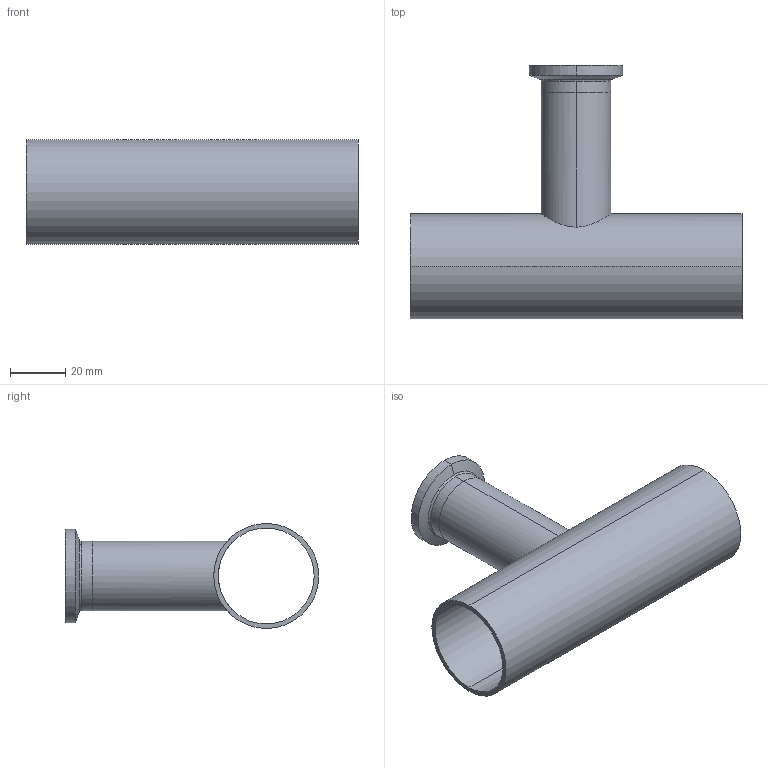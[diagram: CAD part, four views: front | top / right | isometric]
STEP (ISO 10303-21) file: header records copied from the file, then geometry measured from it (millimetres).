
FILE_DESCRIPTION (( 'STEP AP214' ), '1' );
FILE_NAME ('TE7RWWC6L1.5x1.0-..Type A.STEP', '2016-05-23T08:01:12', ( 'eran' ), ( '' ), 'SwSTEP 2.0', 'SolidWorks 2016', '' );
FILE_SCHEMA (( 'AUTOMOTIVE_DESIGN' ));
Length unit declared in the file: millimetre
Products named in the file (1): TE7RWWC6L1.5x1.0-..Type A
Bounding box: 120.6 x 92.05 x 38.1 mm (x, y, z)
Volume: 30290.9 mm3; surface area: 36835.7 mm2
Topology: 2 solids, 2 shells, 34 faces, 82 edges, 54 vertices
Faces by surface type: cylinder 16, bspline 8, plane 6, cone 4
Entity records: 1357 total; most frequent: CARTESIAN_POINT 501, DIRECTION 182, ORIENTED_EDGE 164, EDGE_CURVE 82, AXIS2_PLACEMENT_3D 81, VERTEX_POINT 54, CIRCLE 54, EDGE_LOOP 42
